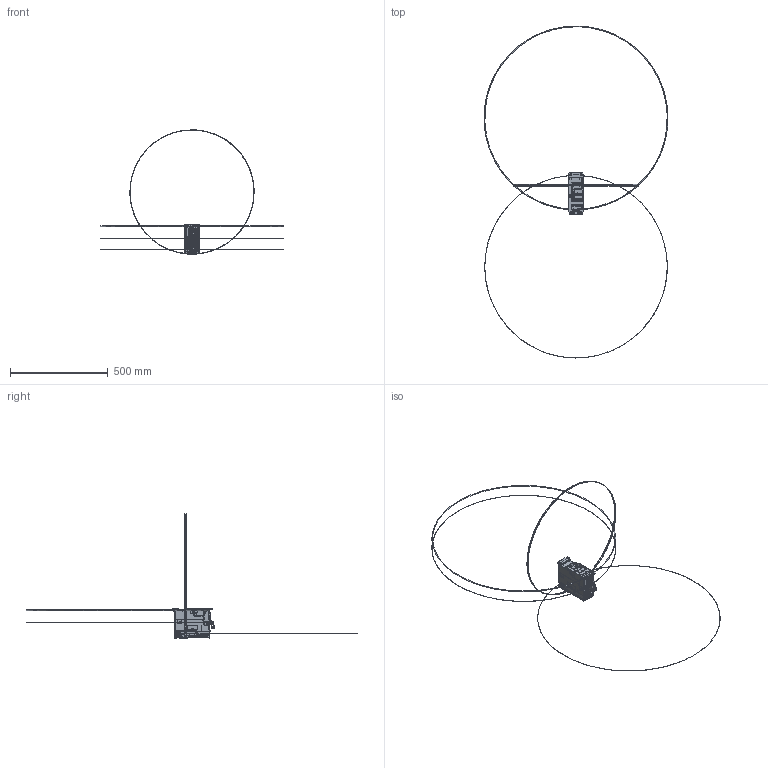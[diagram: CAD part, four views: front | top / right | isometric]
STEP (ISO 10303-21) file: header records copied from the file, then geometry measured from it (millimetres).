
FILE_DESCRIPTION((''),'2;1');
FILE_NAME('SIMPLE_SW0001','2013-08-09T',('owenrh01'),(''),'PRO/ENGINEER BY PARAMETRIC TECHNOLOGY CORPORATION, 2011490','PRO/ENGINEER BY PARAMETRIC TECHNOLOGY CORPORATION, 2011490','');
FILE_SCHEMA(('CONFIG_CONTROL_DESIGN'));
Products named in the file (1): SIMPLE_SW0001
Bounding box: 938.89 x 1694.53 x 634.72 mm (x, y, z)
Surface area: 352394.9 mm2 (no closed solid volume)
Topology: 0 solids, 0 shells, 2395 faces, 17945 edges, 17851 vertices
Faces by surface type: bspline 2290, torus 93, sphere 12
Entity records: 309793 total; most frequent: CARTESIAN_POINT 150907, DIRECTION 23371, TRIMMED_CURVE 21154, VECTOR 19147, LINE 19147, DEFINITIONAL_REPRESENTATION 17750, PCURVE 17750, COMPOSITE_CURVE_SEGMENT 17750
